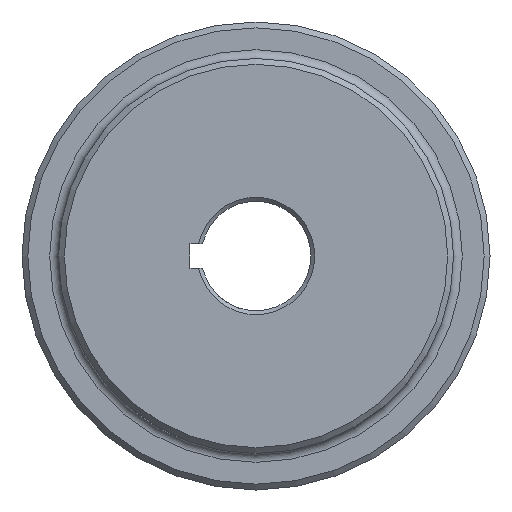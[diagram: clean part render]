
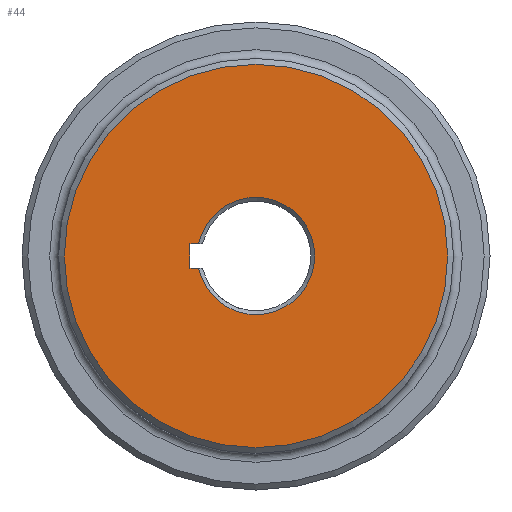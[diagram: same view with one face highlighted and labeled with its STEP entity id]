
A CAD part, left-side view. The second image highlights one B-rep face of the part: STEP entity #44.
In plain terms, the highlighted planar face has unit normal (-1, 0, 0).
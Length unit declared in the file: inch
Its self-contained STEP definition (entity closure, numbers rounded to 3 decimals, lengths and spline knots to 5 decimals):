
#3 = DIRECTION ( 'NONE',  ( 1., 0., 0. ) ) ;
#44 = ADVANCED_FACE ( 'NONE', ( #1395, #2565 ), #905, .F. ) ;
#72 = CARTESIAN_POINT ( 'NONE',  ( 0., 0., -1.97 ) ) ;
#94 = CARTESIAN_POINT ( 'NONE',  ( 0., 0., 0. ) ) ;
#118 = DIRECTION ( 'NONE',  ( 0., 0., -1. ) ) ;
#184 = CIRCLE ( 'NONE', #2420, 0.60275 ) ;
#276 = CIRCLE ( 'NONE', #1052, 1.97 ) ;
#343 = DIRECTION ( 'NONE',  ( 0., -1., 0. ) ) ;
#477 = ORIENTED_EDGE ( 'NONE', *, *, #1513, .T. ) ;
#536 = VERTEX_POINT ( 'NONE', #1985 ) ;
#541 = DIRECTION ( 'NONE',  ( -1., 0., 0. ) ) ;
#608 = ORIENTED_EDGE ( 'NONE', *, *, #2560, .F. ) ;
#652 = VERTEX_POINT ( 'NONE', #1030 ) ;
#736 = ORIENTED_EDGE ( 'NONE', *, *, #2124, .F. ) ;
#856 = VECTOR ( 'NONE', #1068, 39.37008 ) ;
#905 = PLANE ( 'NONE',  #1702 ) ;
#978 = VERTEX_POINT ( 'NONE', #1739 ) ;
#1002 = ORIENTED_EDGE ( 'NONE', *, *, #1751, .F. ) ;
#1011 = EDGE_LOOP ( 'NONE', ( #2172 ) ) ;
#1030 = CARTESIAN_POINT ( 'NONE',  ( 0., 0.58965, -0.125 ) ) ;
#1052 = AXIS2_PLACEMENT_3D ( 'NONE', #1218, #541, #118 ) ;
#1068 = DIRECTION ( 'NONE',  ( 0., 0., -1. ) ) ;
#1125 = LINE ( 'NONE', #2167, #1804 ) ;
#1218 = CARTESIAN_POINT ( 'NONE',  ( 0., 0., 0. ) ) ;
#1240 = DIRECTION ( 'NONE',  ( 0., 0., -1. ) ) ;
#1264 = VERTEX_POINT ( 'NONE', #72 ) ;
#1353 = VERTEX_POINT ( 'NONE', #2616 ) ;
#1395 = FACE_OUTER_BOUND ( 'NONE', #1011, .T. ) ;
#1489 = LINE ( 'NONE', #1582, #856 ) ;
#1507 = DIRECTION ( 'NONE',  ( 0., 0., -1. ) ) ;
#1513 = EDGE_CURVE ( 'NONE', #978, #652, #184, .T. ) ;
#1527 = CARTESIAN_POINT ( 'NONE',  ( 0., 0., 0.125 ) ) ;
#1562 = EDGE_LOOP ( 'NONE', ( #608, #477, #1002, #736 ) ) ;
#1582 = CARTESIAN_POINT ( 'NONE',  ( 0., 0.67925, -0.125 ) ) ;
#1702 = AXIS2_PLACEMENT_3D ( 'NONE', #94, #2429, #1240 ) ;
#1739 = CARTESIAN_POINT ( 'NONE',  ( 0., 0.58965, 0.125 ) ) ;
#1751 = EDGE_CURVE ( 'NONE', #536, #652, #1125, .T. ) ;
#1804 = VECTOR ( 'NONE', #343, 39.37008 ) ;
#1985 = CARTESIAN_POINT ( 'NONE',  ( 0., 0.67925, -0.125 ) ) ;
#2124 = EDGE_CURVE ( 'NONE', #1353, #536, #1489, .T. ) ;
#2167 = CARTESIAN_POINT ( 'NONE',  ( 0., 0., -0.125 ) ) ;
#2172 = ORIENTED_EDGE ( 'NONE', *, *, #2199, .T. ) ;
#2199 = EDGE_CURVE ( 'NONE', #1264, #1264, #276, .T. ) ;
#2279 = LINE ( 'NONE', #1527, #2311 ) ;
#2311 = VECTOR ( 'NONE', #2452, 39.37008 ) ;
#2420 = AXIS2_PLACEMENT_3D ( 'NONE', #2727, #3, #1507 ) ;
#2429 = DIRECTION ( 'NONE',  ( 1., 0., 0. ) ) ;
#2452 = DIRECTION ( 'NONE',  ( 0., 1., 0. ) ) ;
#2560 = EDGE_CURVE ( 'NONE', #978, #1353, #2279, .T. ) ;
#2565 = FACE_BOUND ( 'NONE', #1562, .T. ) ;
#2616 = CARTESIAN_POINT ( 'NONE',  ( 0., 0.67925, 0.125 ) ) ;
#2727 = CARTESIAN_POINT ( 'NONE',  ( 0., 0., 0. ) ) ;
